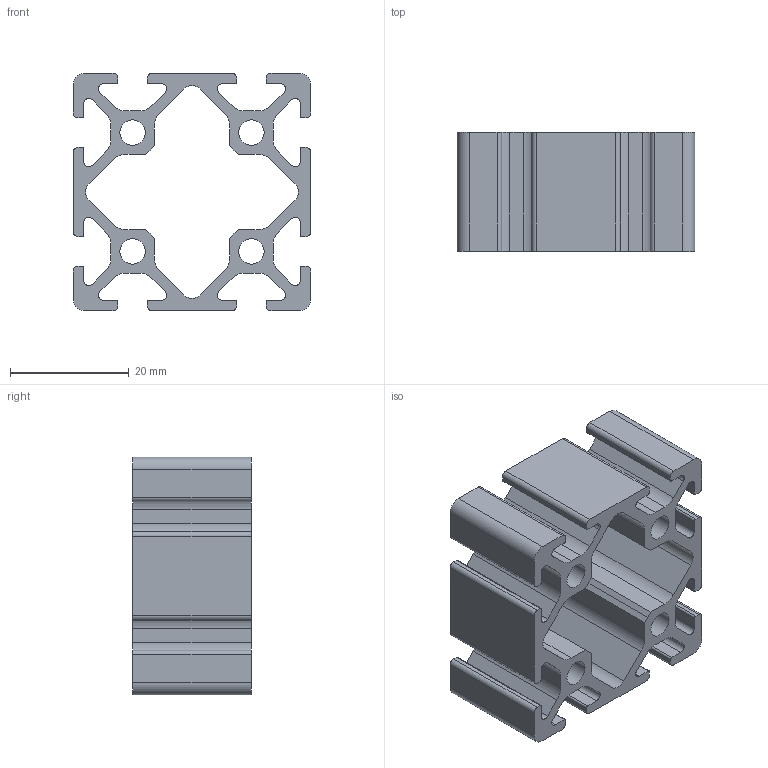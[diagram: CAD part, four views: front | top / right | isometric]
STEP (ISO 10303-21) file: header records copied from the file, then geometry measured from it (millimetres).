
FILE_DESCRIPTION(('STEP AP214'),'1');
FILE_NAME('cctmp_DC1CF2E0-F503-49C3-A8E6-5E58F384AD70_2023_04_25_10_00_55_0893_42668..stp','2023-04-25T08:00:55',('item Industrietechnik GmbH'),('CADClick - www.CADClick.com'),'Spatial InterOp 3D',' ','unknown authorization');
FILE_SCHEMA(('AUTOMOTIVE_DESIGN'));
Length unit declared in the file: millimetre
Products named in the file (2): item_0037005_Profile 5 40x40_L=20; item_0037005_Profile 5 40x40_L=20_1
Assembly tree (1 placements, depth 2):
  item_0037005_Profile 5 40x40_L=20
    item_0037005_Profile 5 40x40_L=20_1
Bounding box: 40 x 20 x 40 mm (x, y, z)
Volume: 10283.1 mm3; surface area: 10646.2 mm2
Topology: 1 solids, 1 shells, 180 faces, 534 edges, 356 vertices
Faces by surface type: plane 92, cylinder 88
Entity records: 7585 total; most frequent: DIRECTION 1074, CARTESIAN_POINT 1072, ORIENTED_EDGE 1068, EDGE_CURVE 534, AXIS2_PLACEMENT_3D 358, LINE 358, VECTOR 358, VERTEX_POINT 356
